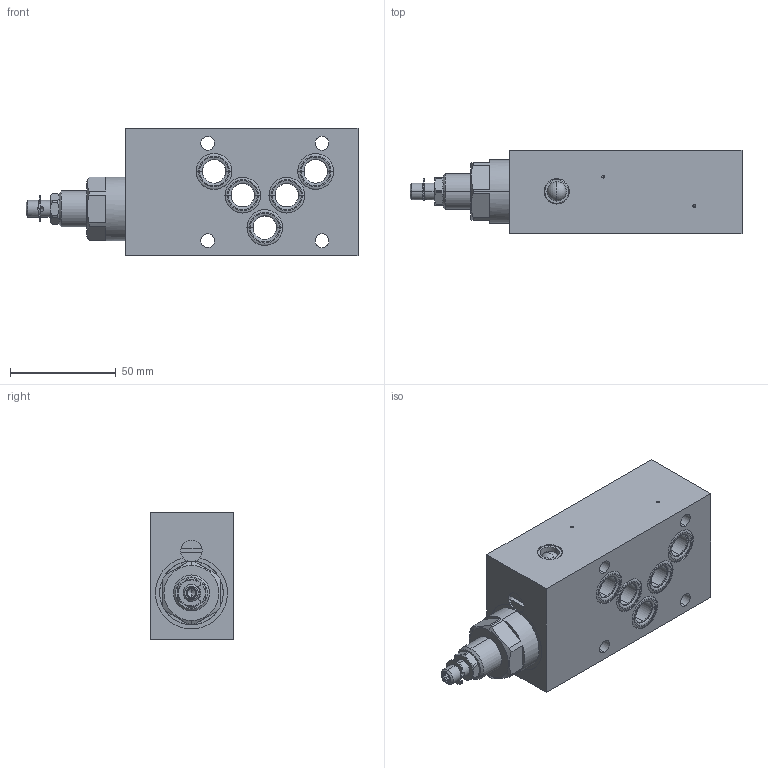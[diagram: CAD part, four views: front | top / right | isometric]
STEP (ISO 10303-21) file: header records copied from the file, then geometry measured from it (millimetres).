
FILE_DESCRIPTION (( 'STEP AP214' ), '1' );
FILE_NAME ('B.SSA10-A.STEP', '2017-03-23T07:29:35', ( '' ), ( '' ), 'SwSTEP 2.0', 'SolidWorks 2016', '' );
FILE_SCHEMA (( 'AUTOMOTIVE_DESIGN' ));
Length unit declared in the file: millimetre
Products named in the file (1): B.SSA10-A
Bounding box: 156.8 x 39.5 x 60 mm (x, y, z)
Volume: 251386.9 mm3; surface area: 43219.4 mm2
Topology: 9 solids, 10 shells, 273 faces, 691 edges, 440 vertices
Faces by surface type: cylinder 103, plane 79, cone 47, bspline 40, sphere 4
Entity records: 12109 total; most frequent: CARTESIAN_POINT 2477, DIRECTION 1412, ORIENTED_EDGE 1358, EDGE_CURVE 679, AXIS2_PLACEMENT_3D 595, VERTEX_POINT 440, CIRCLE 361, EDGE_LOOP 317
